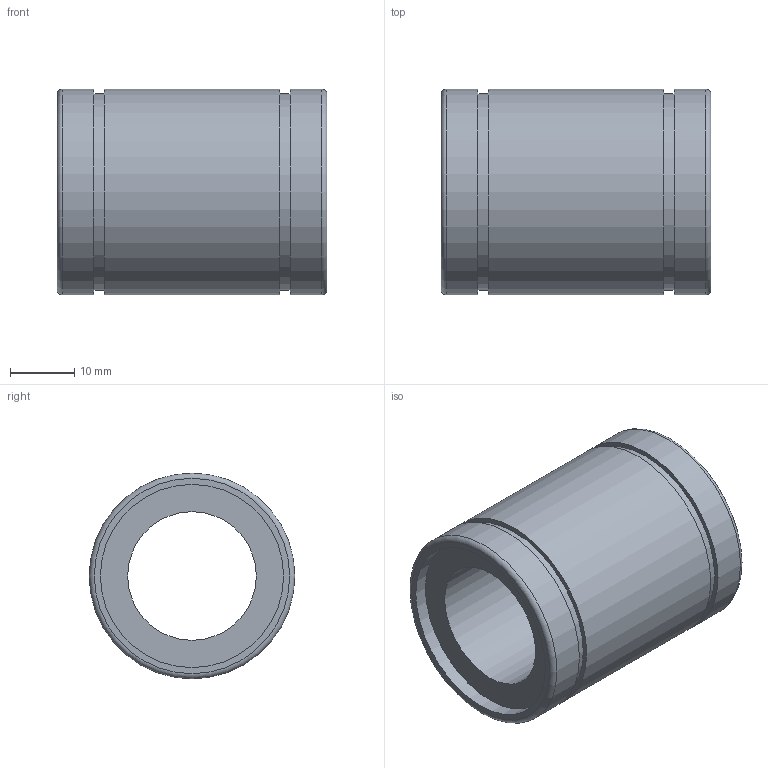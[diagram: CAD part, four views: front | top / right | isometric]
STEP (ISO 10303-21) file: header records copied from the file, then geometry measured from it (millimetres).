
FILE_DESCRIPTION( ( 'Unknown' ), '1' );
FILE_NAME( 'D:/累诀/己绕皋墨飘肺葱胶/11-04-06_档搁累己/01_府聪绢何教/LM/LM20.stp', 'Unknown', ( 'Unknown' ), ( 'Unknown' ), 'PSStep 11.0', 'Unknown', ' ' );
FILE_SCHEMA( ( 'AUTOMOTIVE_DESIGN { 1 0 10303 214 1 1 1 1 }' ) );
Length unit declared in the file: millimetre
Products named in the file (1): 1
Bounding box: 42 x 32 x 32 mm (x, y, z)
Volume: 18960.9 mm3; surface area: 8163.4 mm2
Topology: 1 solids, 1 shells, 18 faces, 30 edges, 20 vertices
Faces by surface type: plane 8, cylinder 8, torus 2
Full cylindrical faces by diameter (mm): 20 x1, 28.5 x2, 30.5 x2, 32 x3
Entity records: 528 total; most frequent: DIRECTION 74, CARTESIAN_POINT 55, AXIS2_PLACEMENT_3D 37, EDGE_LOOP 36, ORIENTED_EDGE 36, FACE_OUTER_BOUND 28, STYLED_ITEM 18, PRESENTATION_STYLE_ASSIGNMENT 18
